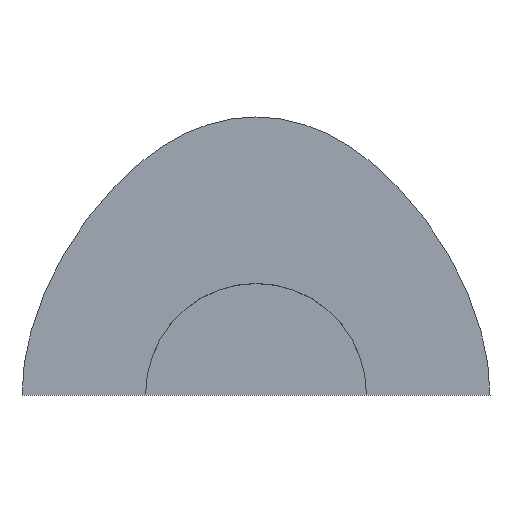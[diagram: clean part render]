
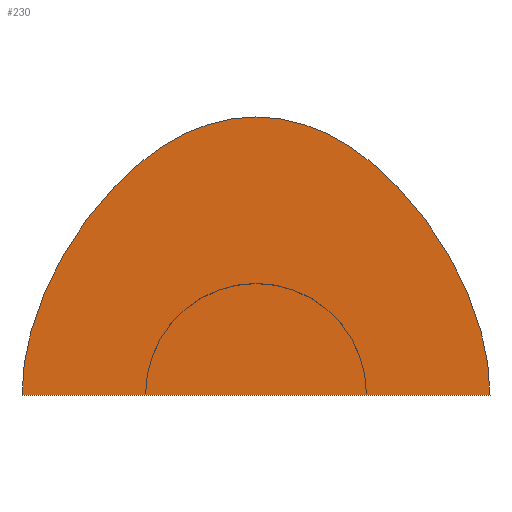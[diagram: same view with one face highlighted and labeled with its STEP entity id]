
A CAD part, top view. The second image highlights one B-rep face of the part: STEP entity #230.
In plain terms, the highlighted planar face has unit normal (0, 0, 1).
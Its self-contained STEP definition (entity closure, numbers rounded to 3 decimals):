
#193=CARTESIAN_POINT('Axis2P3D Location',(0.,51.125,0.)) ;
#198=CARTESIAN_POINT('Line Origine',(0.,0.,0.)) ;
#202=CARTESIAN_POINT('Vertex',(-106.,0.,0.)) ;
#204=CARTESIAN_POINT('Vertex',(106.,0.,0.)) ;
#208=CARTESIAN_POINT('Control Point',(0.,126.,0.)) ;
#209=CARTESIAN_POINT('Control Point',(32.931,126.,0.)) ;
#210=CARTESIAN_POINT('Control Point',(63.548,106.849,0.)) ;
#211=CARTESIAN_POINT('Control Point',(91.849,68.548,0.)) ;
#212=CARTESIAN_POINT('Control Point',(106.,32.931,0.)) ;
#213=CARTESIAN_POINT('Control Point',(106.,0.,0.)) ;
#214=CARTESIAN_POINT('Vertex',(0.,126.,0.)) ;
#218=CARTESIAN_POINT('Control Point',(0.,126.,0.)) ;
#219=CARTESIAN_POINT('Control Point',(-32.931,126.,0.)) ;
#220=CARTESIAN_POINT('Control Point',(-63.548,106.849,0.)) ;
#221=CARTESIAN_POINT('Control Point',(-91.849,68.548,0.)) ;
#222=CARTESIAN_POINT('Control Point',(-106.,32.931,0.)) ;
#223=CARTESIAN_POINT('Control Point',(-106.,0.,0.)) ;
#194=DIRECTION('Axis2P3D Direction',(0.,0.,1.)) ;
#195=DIRECTION('Axis2P3D XDirection',(1.,0.,0.)) ;
#199=DIRECTION('Vector Direction',(1.,0.,0.)) ;
#196=AXIS2_PLACEMENT_3D('Plane Axis2P3D',#193,#194,#195) ;
#226=ORIENTED_EDGE('',*,*,#206,.T.) ;
#227=ORIENTED_EDGE('',*,*,#216,.T.) ;
#228=ORIENTED_EDGE('',*,*,#224,.T.) ;
#200=VECTOR('Line Direction',#199,1.) ;
#230=ADVANCED_FACE('Fill.1',(#229),#197,.T.) ;
#207=B_SPLINE_CURVE_WITH_KNOTS('',5,(#208,#209,#210,#211,#212,#213),.UNSPECIFIED.,.F.,.U.,(6,6),(0.,164.657),.UNSPECIFIED.) ;
#217=B_SPLINE_CURVE_WITH_KNOTS('',5,(#218,#219,#220,#221,#222,#223),.UNSPECIFIED.,.F.,.U.,(6,6),(0.,164.657),.UNSPECIFIED.) ;
#206=EDGE_CURVE('',#203,#205,#201,.T.) ;
#216=EDGE_CURVE('',#205,#215,#207,.F.) ;
#224=EDGE_CURVE('',#215,#203,#217,.T.) ;
#225=EDGE_LOOP('',(#226,#227,#228)) ;
#229=FACE_OUTER_BOUND('',#225,.T.) ;
#201=LINE('Line',#198,#200) ;
#197=PLANE('',#196) ;
#203=VERTEX_POINT('',#202) ;
#205=VERTEX_POINT('',#204) ;
#215=VERTEX_POINT('',#214) ;
